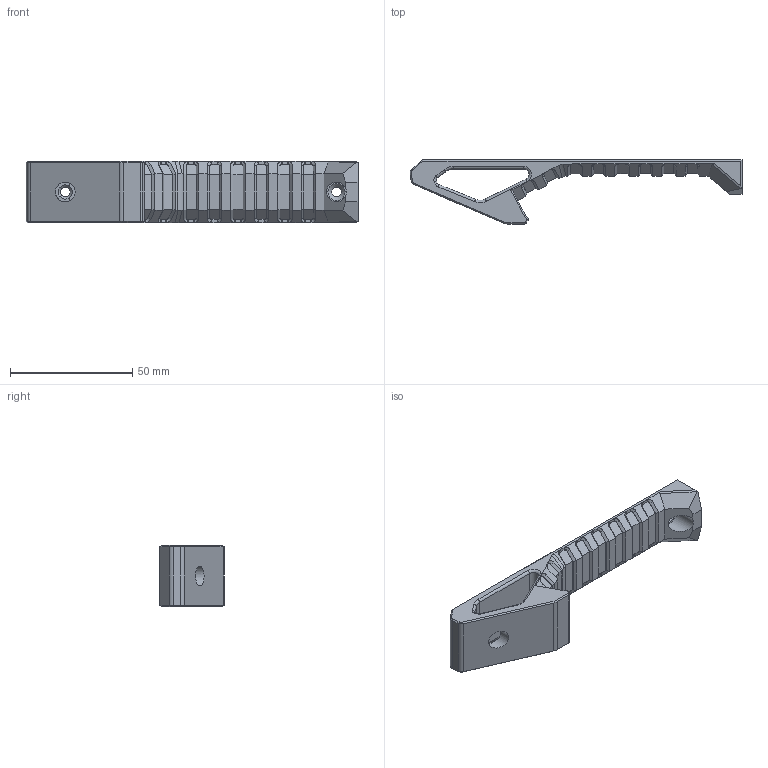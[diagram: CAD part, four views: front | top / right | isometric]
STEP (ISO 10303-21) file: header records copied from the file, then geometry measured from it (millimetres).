
FILE_DESCRIPTION(/* description */ (''),/* implementation_level */ '2;1');
FILE_NAME(/* name */ 'D:/Pew Pews/FGC-9_MkII_Stingray_Edition/Stingray Edition/.step files/6 - Accessories/Large Hand Stop.step',/* time_stamp */ '2022-05-12T11:07:55-06:00',/* author */ (''),/* organization */ (''),/* preprocessor_version */ 'ST-DEVELOPER v18.1',/* originating_system */ 'Autodesk Translation Framework v10.10.0.1391',/* authorisation */ '');
FILE_SCHEMA (('AUTOMOTIVE_DESIGN { 1 0 10303 214 3 1 1 }'));
Length unit declared in the file: millimetre
Products named in the file (1): Hand stop 2
Bounding box: 135.82 x 26.2 x 25 mm (x, y, z)
Volume: 27624.2 mm3; surface area: 12153.1 mm2
Topology: 1 solids, 1 shells, 349 faces, 860 edges, 512 vertices
Faces by surface type: plane 194, cylinder 62, cone 47, bspline 36, torus 10
Full cylindrical faces by diameter (mm): 4 x2, 8.15 x2
Entity records: 10764 total; most frequent: CARTESIAN_POINT 2661, ORIENTED_EDGE 1720, DIRECTION 1598, EDGE_CURVE 860, LINE 600, VECTOR 600, VERTEX_POINT 512, AXIS2_PLACEMENT_3D 499
